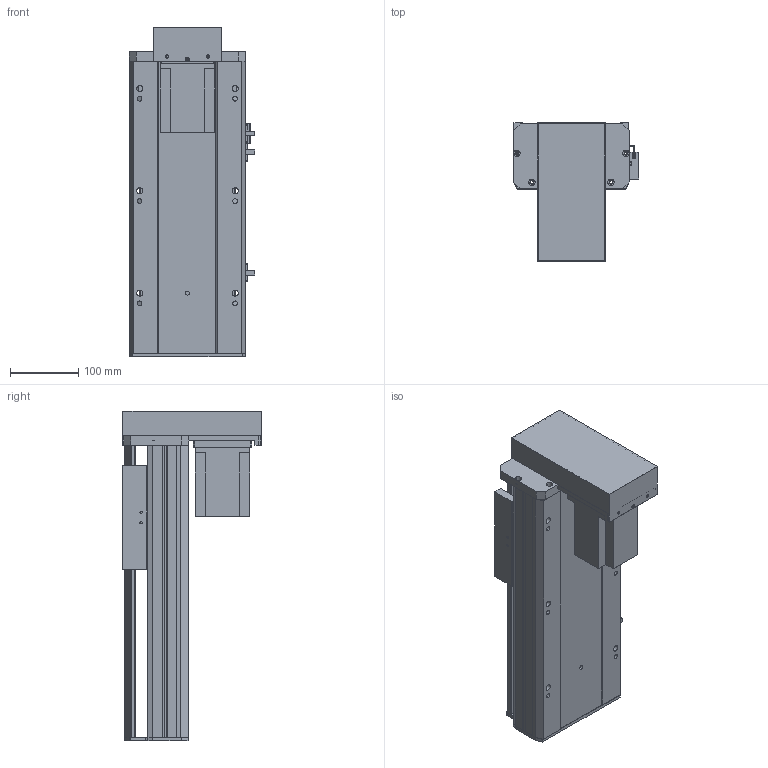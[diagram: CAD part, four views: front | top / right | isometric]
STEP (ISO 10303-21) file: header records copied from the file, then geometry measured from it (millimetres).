
FILE_DESCRIPTION (( 'STEP AP203' ), '1' );
FILE_NAME ('Y170-D10-S200-BM-P750W.STEP', '2020-01-22T02:48:41', ( '微软用户' ), ( '微软中国' ), 'SwSTEP 2.0', 'SolidWorks 2017', '' );
FILE_SCHEMA (( 'CONFIG_CONTROL_DESIGN' ));
Length unit declared in the file: millimetre
Products named in the file (12): Y170-D10-S200-BM-P750W; EGH20賑輸_蕼偞; Y雄赽釱-耜蚾; Y170-陔遴奻裔-BR; 170-BM耜蚾蟀諉啣; Y170-BM--P750W楊擘啣; -BM俋袗; Y170耜裔--準---; YD-Y100-135-新外置传感挡片(通用）; 170--掛极-BR; Y100-135俋离換覜ん; 侂狟750W
Assembly tree (14 placements, depth 2):
  Y170-D10-S200-BM-P750W
    Y170耜裔--準---
    170--掛极-BR
    侂狟750W
    EGH20賑輸_蕼偞  x2
    Y雄赽釱-耜蚾
    Y170-陔遴奻裔-BR
    170-BM耜蚾蟀諉啣
    Y170-BM--P750W楊擘啣
    -BM俋袗
    YD-Y100-135-新外置传感挡片(通用）
    Y100-135俋离換覜ん  x3
Bounding box: 183.5 x 203.5 x 483.5 mm (x, y, z)
Volume: 3081764.9 mm3; surface area: 970034.4 mm2
Topology: 14 solids, 14 shells, 870 faces, 2412 edges, 1590 vertices
Faces by surface type: plane 436, cylinder 418, cone 16
Entity records: 26986 total; most frequent: CARTESIAN_POINT 4615, DIRECTION 4504, ORIENTED_EDGE 4320, EDGE_CURVE 2160, AXIS2_PLACEMENT_3D 1587, VERTEX_POINT 1434, VECTOR 1330, LINE 1330
